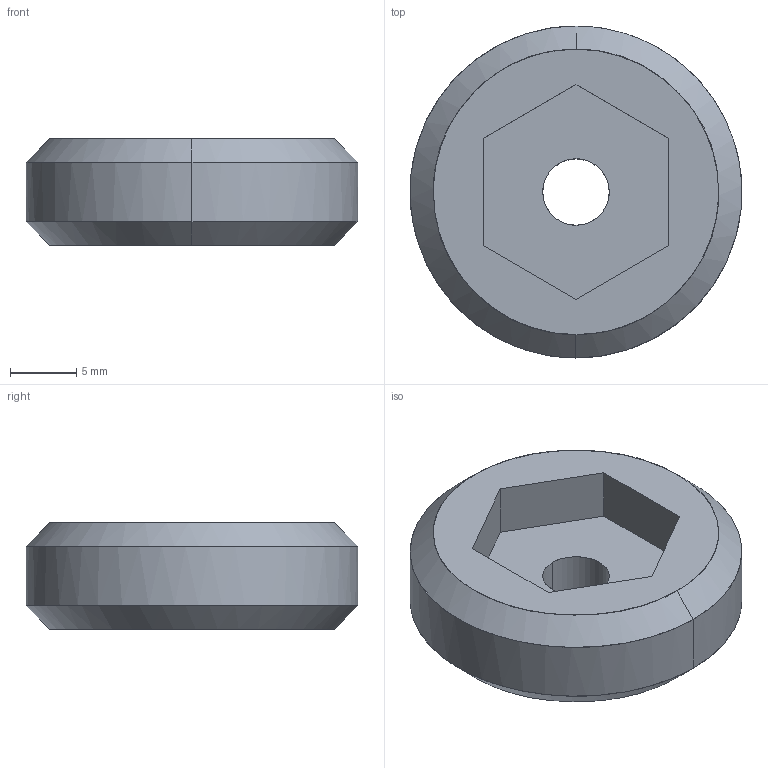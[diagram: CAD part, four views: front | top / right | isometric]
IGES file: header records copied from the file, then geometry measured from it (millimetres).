
Global section: file name: E:\UnigraphicsGraphicData\MISUMI_PRESS-PARTS\IGES\3d_mswsh25-8_00474_r00.igs; native system: NX V5.0; preprocessor: UGS NX IGES V5.0; author: MISUMI; date: 20110105.161527; units: millimetre
Bounding box: 24.98 x 25 x 8 mm (x, y, z)
Surface area: 1660.9 mm2 (no closed solid volume)
Topology: 0 solids, 0 shells, 17 faces, 100 edges, 100 vertices
Faces by surface type: bspline 17
